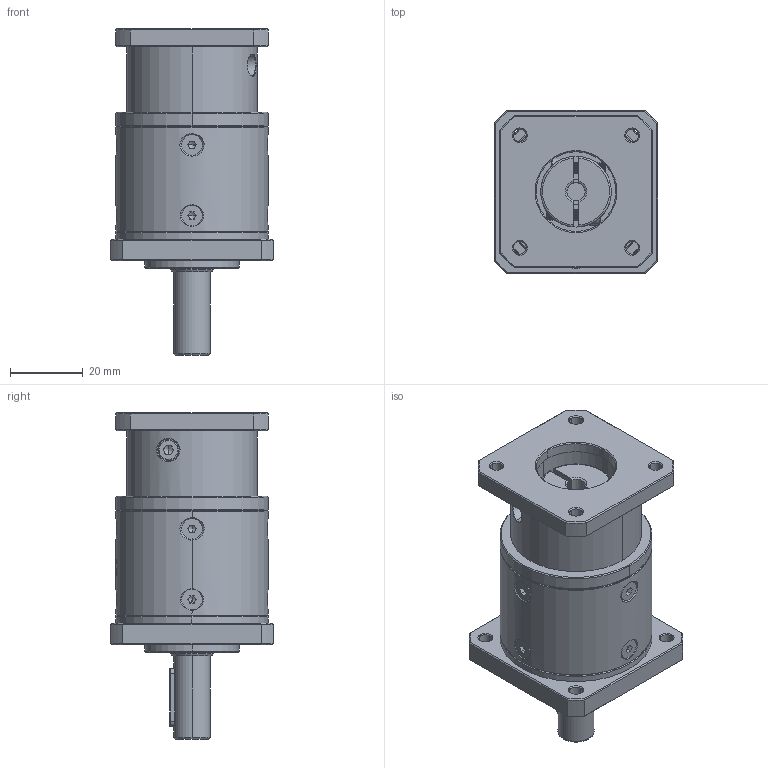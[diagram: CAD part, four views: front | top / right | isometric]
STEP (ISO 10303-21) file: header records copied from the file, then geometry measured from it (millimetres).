
FILE_DESCRIPTION (( 'STEP AP214' ), '1' );
FILE_NAME ('ZF40-L1-22-31X31-¿×3.5.step', '2023-03-15T09:46:06', ( '' ), ( '' ), 'SwSTEP 2.0', 'SolidWorks 2016', '' );
FILE_SCHEMA (( 'AUTOMOTIVE_DESIGN' ));
Length unit declared in the file: millimetre
Products named in the file (1): ZF40-L1-22-31X31-謂3.5
Bounding box: 45 x 45 x 90 mm (x, y, z)
Volume: 83894.9 mm3; surface area: 25216.9 mm2
Topology: 14 solids, 14 shells, 1816 faces, 4785 edges, 3069 vertices
Faces by surface type: plane 856, cone 324, bspline 308, cylinder 298, torus 30
Entity records: 107338 total; most frequent: CARTESIAN_POINT 45047, ORIENTED_EDGE 9526, DIRECTION 7648, EDGE_CURVE 4763, VERTEX_POINT 3069, AXIS2_PLACEMENT_3D 2594, LINE 2460, VECTOR 2460
